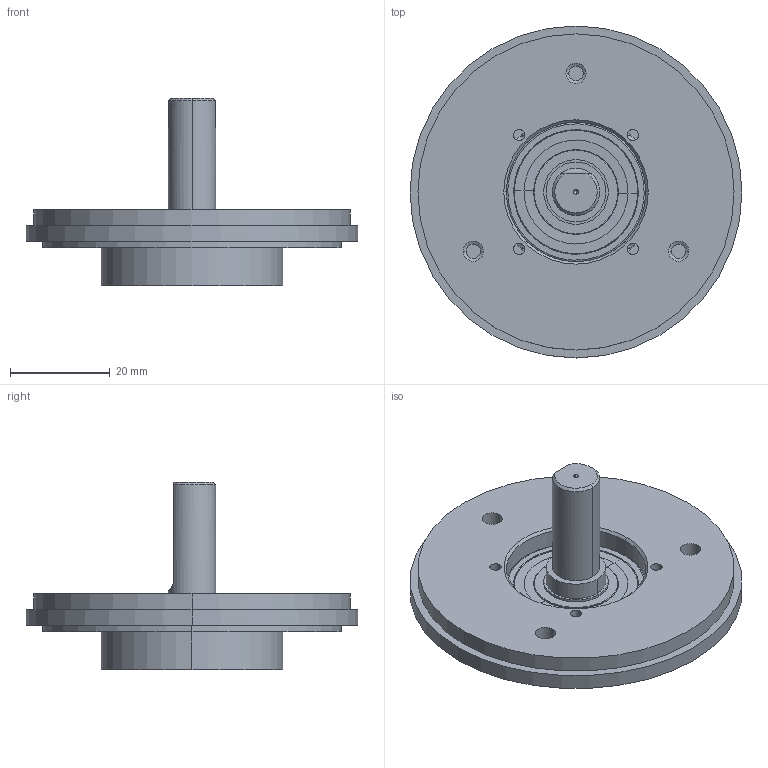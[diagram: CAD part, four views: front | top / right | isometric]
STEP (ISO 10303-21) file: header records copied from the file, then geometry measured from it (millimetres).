
FILE_DESCRIPTION (( 'STEP AP214' ), '1' );
FILE_NAME ('Drawing-MCD-A7W0-Q5A-N.STEP', '2016-01-28T13:28:18', ( '' ), ( '' ), 'SwSTEP 2.0', 'SolidWorks 2015', '' );
FILE_SCHEMA (( 'AUTOMOTIVE_DESIGN' ));
Length unit declared in the file: millimetre
Products named in the file (1): Drawing-MCD-A7W0-Q5A-N
Bounding box: 66.67 x 66.67 x 37.64 mm (x, y, z)
Volume: 29944.7 mm3; surface area: 16558.3 mm2
Topology: 13 solids, 14 shells, 175 faces, 397 edges, 239 vertices
Faces by surface type: cylinder 67, cone 34, plane 32, torus 26, sphere 16
Entity records: 6658 total; most frequent: DIRECTION 923, CARTESIAN_POINT 774, ORIENTED_EDGE 690, AXIS2_PLACEMENT_3D 406, EDGE_CURVE 345, CIRCLE 230, VERTEX_POINT 215, EDGE_LOOP 200
